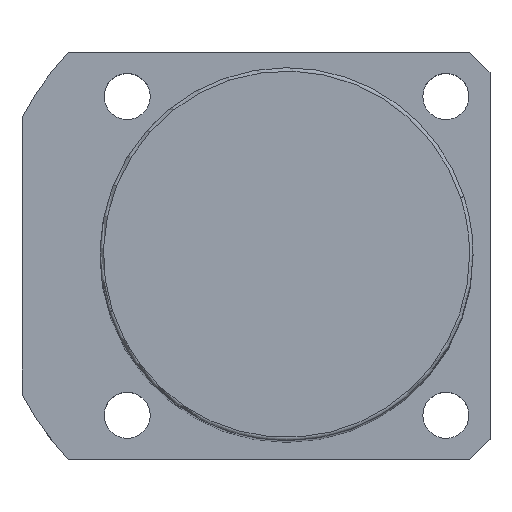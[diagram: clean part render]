
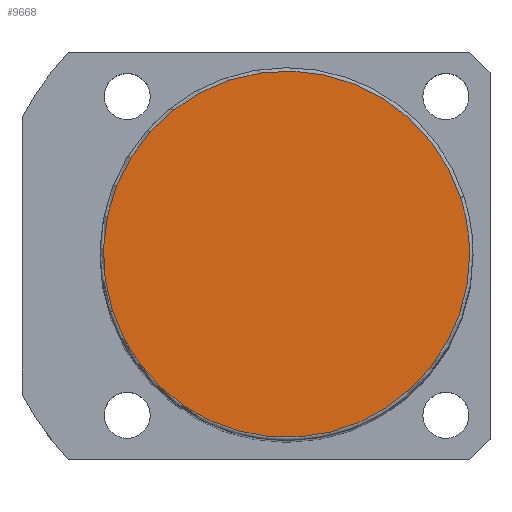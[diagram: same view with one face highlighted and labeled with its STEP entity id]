
A CAD part, top view. The second image highlights one B-rep face of the part: STEP entity #9668.
In plain terms, the highlighted planar face has unit normal (0, 0, 1).
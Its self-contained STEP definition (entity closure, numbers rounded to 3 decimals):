
#9601=CARTESIAN_POINT('',(25.679,8.343,151.0));
#9602=VERTEX_POINT('',#9601);
#9620=CARTESIAN_POINT('',(-25.679,-8.343,151.0));
#9621=VERTEX_POINT('',#9620);
#9629=CARTESIAN_POINT('',(0.0,0.0,151.0));
#9630=DIRECTION('',(0.0,0.0,1.0));
#9631=DIRECTION('',(1.0,0.0,0.0));
#9632=AXIS2_PLACEMENT_3D('',#9629,#9630,#9631);
#9633=CIRCLE('',#9632,27.0);
#9634=EDGE_CURVE('no 4571',#9602,#9621,#9633,.T.);
#9644=CARTESIAN_POINT('',(27.0,0.0,151.0));
#9645=VERTEX_POINT('',#9644);
#9646=CARTESIAN_POINT('',(0.0,0.0,151.0));
#9647=DIRECTION('',(0.0,0.0,1.0));
#9648=DIRECTION('',(1.0,0.0,0.0));
#9649=AXIS2_PLACEMENT_3D('',#9646,#9647,#9648);
#9650=CIRCLE('',#9649,27.0);
#9651=EDGE_CURVE('no 4580',#9645,#9602,#9650,.T.);
#9652=ORIENTED_EDGE('',*,*,#9651,.T.);
#9653=ORIENTED_EDGE('',*,*,#9634,.T.);
#9654=CARTESIAN_POINT('',(0.0,0.0,151.0));
#9655=DIRECTION('',(0.0,0.0,1.0));
#9656=DIRECTION('',(1.0,0.0,0.0));
#9657=AXIS2_PLACEMENT_3D('',#9654,#9655,#9656);
#9658=CIRCLE('',#9657,27.0);
#9659=EDGE_CURVE('no 4586',#9621,#9645,#9658,.T.);
#9660=ORIENTED_EDGE('',*,*,#9659,.T.);
#9661=EDGE_LOOP('',(#9652,#9653,#9660));
#9662=FACE_OUTER_BOUND('',#9661,.T.);
#9663=CARTESIAN_POINT('',(0.0,0.0,151.0));
#9664=DIRECTION('',(0.0,0.0,1.0));
#9665=DIRECTION('',(1.0,0.0,0.0));
#9666=AXIS2_PLACEMENT_3D('',#9663,#9664,#9665);
#9667=PLANE('',#9666);
#9668=ADVANCED_FACE('no 4573',(#9662),#9667,.T.);
